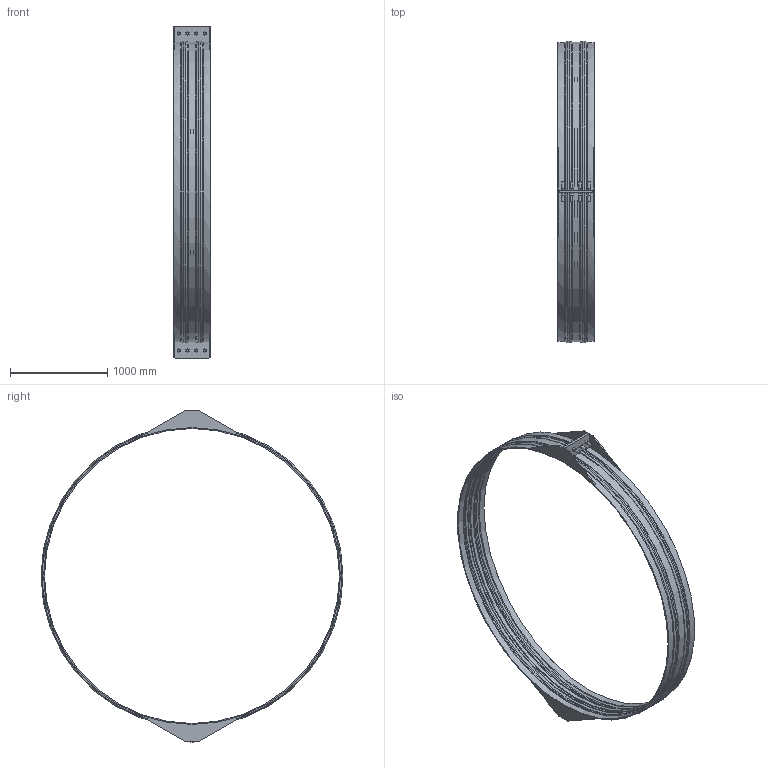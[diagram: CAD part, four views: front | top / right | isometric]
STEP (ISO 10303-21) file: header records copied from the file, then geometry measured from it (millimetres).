
FILE_DESCRIPTION(/* description */ ('VIC RESTRAINED COUPLING STYLE 233 (FLEX) (BRD)','CAx-IF Rec.Pracs.---Representation and Presentation of Product Manufacturing Information (PMI)---4.0---2014-10-13'),/* implementation_level */ '2;1');
FILE_NAME(/* name */ 'C:\Users\Vjadhav\Desktop\CAD for Inventor\Test for STEP\Vivek\Adsk_Inventor_Bolted Sleeve_iParts\STEP\Victaulic_VBSP_Coupling Flexible Restrained_Style 233 (BRD)\Victaulic_VBSP_Coupling Flexible Restrained_Style 233 (BRD)_100psi_120 (3000).stp',/* time_stamp */ '2020-09-24T12:32:07+05:00',/* author */ ('Vjadhav'),/* organization */ ('Victaulic'),/* preprocessor_version */ 'ST-DEVELOPER v17.2',/* originating_system */ 'Autodesk Inventor 2019',/* authorisation */ '');
FILE_SCHEMA (('AP242_MANAGED_MODEL_BASED_3D_ENGINEERING_MIM_LF { 1 0 10303 442 1 1 4 }'));
Length unit declared in the file: inch
Products named in the file (1): Style_233_Type_2_100psi-120.0
Bounding box: 374.65 x 3100.09 x 3409.95 mm (x, y, z)
Volume: 57848945.6 mm3; surface area: 8872044.1 mm2
Topology: 1 solids, 1 shells, 239 faces, 625 edges, 422 vertices
Faces by surface type: plane 166, cylinder 43, torus 18, cone 12
Full cylindrical faces by diameter (mm): 25.4 x16, 3028.95 x1, 3048 x2, 3054.35 x2
Entity records: 7896 total; most frequent: CARTESIAN_POINT 1496, DIRECTION 1259, ORIENTED_EDGE 1250, EDGE_CURVE 625, LINE 449, VECTOR 449, VERTEX_POINT 422, AXIS2_PLACEMENT_3D 405
